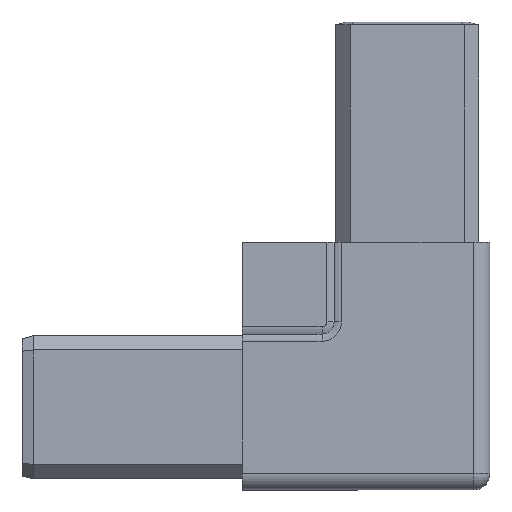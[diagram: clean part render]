
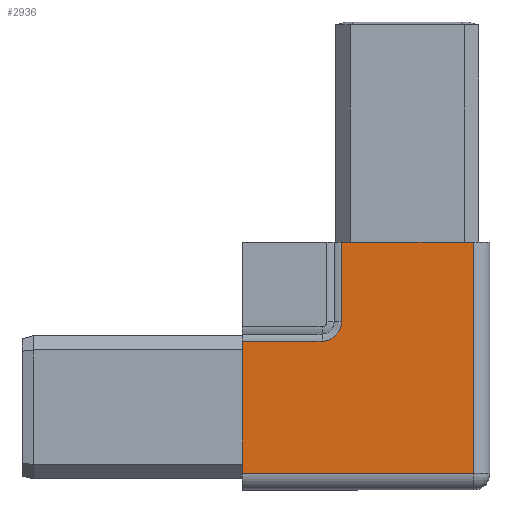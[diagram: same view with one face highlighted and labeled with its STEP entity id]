
A CAD part, top view. The second image highlights one B-rep face of the part: STEP entity #2936.
In plain terms, the highlighted planar face has unit normal (0, 0, 1).
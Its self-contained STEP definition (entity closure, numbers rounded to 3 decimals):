
#129 = EDGE_CURVE ( 'NONE', #703, #604, #2939, .T. ) ;
#247 = ORIENTED_EDGE ( 'NONE', *, *, #1590, .T. ) ;
#353 = AXIS2_PLACEMENT_3D ( 'NONE', #2891, #1166, #574 ) ;
#451 = CARTESIAN_POINT ( 'NONE',  ( -30., -12., 15. ) ) ;
#497 = VECTOR ( 'NONE', #611, 1000. ) ;
#574 = DIRECTION ( 'NONE',  ( 1., 0., 0. ) ) ;
#604 = VERTEX_POINT ( 'NONE', #2125 ) ;
#611 = DIRECTION ( 'NONE',  ( -1., 0., 0. ) ) ;
#703 = VERTEX_POINT ( 'NONE', #2260 ) ;
#781 = VERTEX_POINT ( 'NONE', #2186 ) ;
#786 = FACE_OUTER_BOUND ( 'NONE', #2146, .T. ) ;
#832 = LINE ( 'NONE', #2010, #3140 ) ;
#1034 = DIRECTION ( 'NONE',  ( -1., 0., 0. ) ) ;
#1166 = DIRECTION ( 'NONE',  ( 0., 0., 1. ) ) ;
#1168 = EDGE_CURVE ( 'NONE', #3260, #781, #2948, .T. ) ;
#1223 = ORIENTED_EDGE ( 'NONE', *, *, #3105, .T. ) ;
#1405 = DIRECTION ( 'NONE',  ( 0., -1., 0. ) ) ;
#1447 = LINE ( 'NONE', #1511, #497 ) ;
#1509 = CARTESIAN_POINT ( 'NONE',  ( -11.975, 30., 15. ) ) ;
#1511 = CARTESIAN_POINT ( 'NONE',  ( -15.5, 11.975, 15. ) ) ;
#1515 = EDGE_CURVE ( 'NONE', #604, #3482, #2794, .T. ) ;
#1590 = EDGE_CURVE ( 'NONE', #2540, #703, #832, .T. ) ;
#1649 = DIRECTION ( 'NONE',  ( 0., 1., 0. ) ) ;
#1793 = DIRECTION ( 'NONE',  ( 1., 0., 0. ) ) ;
#1824 = EDGE_CURVE ( 'NONE', #2188, #2540, #2880, .T. ) ;
#1998 = CARTESIAN_POINT ( 'NONE',  ( -11.975, 15.5, 15. ) ) ;
#2010 = CARTESIAN_POINT ( 'NONE',  ( 15., -12., 15. ) ) ;
#2012 = DIRECTION ( 'NONE',  ( 0., 0., 1. ) ) ;
#2066 = DIRECTION ( 'NONE',  ( 0., 1., 0. ) ) ;
#2123 = ORIENTED_EDGE ( 'NONE', *, *, #129, .T. ) ;
#2125 = CARTESIAN_POINT ( 'NONE',  ( 12., 30., 15. ) ) ;
#2146 = EDGE_LOOP ( 'NONE', ( #3593, #247, #2123, #3562, #2684, #3323, #1223 ) ) ;
#2186 = CARTESIAN_POINT ( 'NONE',  ( -11.975, 15.5, 15. ) ) ;
#2188 = VERTEX_POINT ( 'NONE', #2821 ) ;
#2249 = CARTESIAN_POINT ( 'NONE',  ( -15.5, 11.975, 15. ) ) ;
#2260 = CARTESIAN_POINT ( 'NONE',  ( 12., -12., 15. ) ) ;
#2293 = PLANE ( 'NONE',  #3826 ) ;
#2308 = CARTESIAN_POINT ( 'NONE',  ( 15., -15., 15. ) ) ;
#2341 = VECTOR ( 'NONE', #1649, 1000. ) ;
#2540 = VERTEX_POINT ( 'NONE', #451 ) ;
#2684 = ORIENTED_EDGE ( 'NONE', *, *, #2965, .F. ) ;
#2794 = LINE ( 'NONE', #2811, #3637 ) ;
#2811 = CARTESIAN_POINT ( 'NONE',  ( 15., 30., 15. ) ) ;
#2821 = CARTESIAN_POINT ( 'NONE',  ( -30., 11.975, 15. ) ) ;
#2860 = DIRECTION ( 'NONE',  ( 1., 0., 0. ) ) ;
#2880 = LINE ( 'NONE', #2915, #3257 ) ;
#2891 = CARTESIAN_POINT ( 'NONE',  ( -15.5, 15.5, 15. ) ) ;
#2915 = CARTESIAN_POINT ( 'NONE',  ( -30., -15., 15. ) ) ;
#2936 = ADVANCED_FACE ( 'NONE', ( #786 ), #2293, .T. ) ;
#2939 = LINE ( 'NONE', #3227, #3490 ) ;
#2948 = CIRCLE ( 'NONE', #353, 3.525 ) ;
#2965 = EDGE_CURVE ( 'NONE', #781, #3482, #3446, .T. ) ;
#3105 = EDGE_CURVE ( 'NONE', #3260, #2188, #1447, .T. ) ;
#3140 = VECTOR ( 'NONE', #1793, 1000. ) ;
#3227 = CARTESIAN_POINT ( 'NONE',  ( 12., 30., 15. ) ) ;
#3257 = VECTOR ( 'NONE', #1405, 1000. ) ;
#3260 = VERTEX_POINT ( 'NONE', #2249 ) ;
#3323 = ORIENTED_EDGE ( 'NONE', *, *, #1168, .F. ) ;
#3446 = LINE ( 'NONE', #1998, #2341 ) ;
#3482 = VERTEX_POINT ( 'NONE', #1509 ) ;
#3490 = VECTOR ( 'NONE', #2066, 1000. ) ;
#3562 = ORIENTED_EDGE ( 'NONE', *, *, #1515, .T. ) ;
#3593 = ORIENTED_EDGE ( 'NONE', *, *, #1824, .T. ) ;
#3637 = VECTOR ( 'NONE', #1034, 1000. ) ;
#3826 = AXIS2_PLACEMENT_3D ( 'NONE', #2308, #2012, #2860 ) ;
